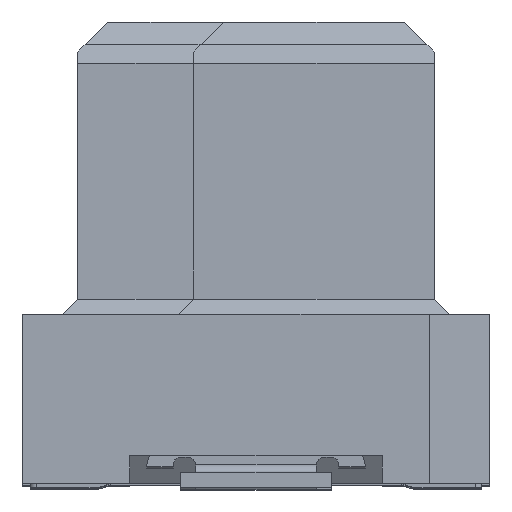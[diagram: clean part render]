
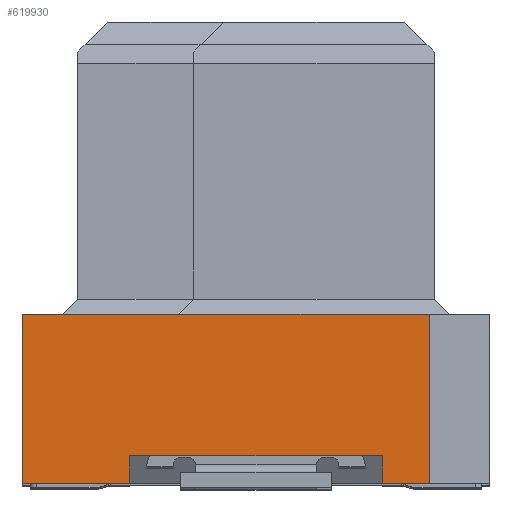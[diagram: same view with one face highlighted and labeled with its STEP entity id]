
A CAD part, top view. The second image highlights one B-rep face of the part: STEP entity #619930.
In plain terms, the highlighted planar face has unit normal (0, 0, 1).
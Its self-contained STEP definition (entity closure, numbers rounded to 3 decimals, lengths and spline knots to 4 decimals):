
#615500=CARTESIAN_POINT('',(5.4,4.25,14.81));
#615510=VERTEX_POINT('',#615500);
#615540=CARTESIAN_POINT('',(5.47,4.25,14.81));
#615550=DIRECTION('',(-1.,0.,0.));
#615560=VECTOR('',#615550,1.);
#615570=LINE('',#615540,#615560);
#615580=CARTESIAN_POINT('',(0.,4.25,14.81));
#615590=VERTEX_POINT('',#615580);
#615600=EDGE_CURVE('',#615510,#615590,#615570,.T.);
#617380=CARTESIAN_POINT('',(0.,0.,14.81));
#617390=DIRECTION('',(0.,-1.,0.));
#617400=VECTOR('',#617390,1.);
#617410=LINE('',#617380,#617400);
#617420=CARTESIAN_POINT('',(0.,2.,14.81));
#617430=VERTEX_POINT('',#617420);
#617440=EDGE_CURVE('',#615590,#617430,#617410,.T.);
#617610=CARTESIAN_POINT('',(5.47,2.,14.81));
#617620=DIRECTION('',(-1.,0.,0.));
#617630=VECTOR('',#617620,1.);
#617640=LINE('',#617610,#617630);
#617650=CARTESIAN_POINT('',(1.425,2.,14.81));
#617660=VERTEX_POINT('',#617650);
#617670=EDGE_CURVE('',#617660,#617430,#617640,.T.);
#617890=CARTESIAN_POINT('',(4.775,2.,14.81));
#617900=VERTEX_POINT('',#617890);
#617930=CARTESIAN_POINT('',(5.4,2.,14.81));
#617940=VERTEX_POINT('',#617930);
#617950=EDGE_CURVE('',#617940,#617900,#617640,.T.);
#619540=CARTESIAN_POINT('',(5.47,4.25,14.81));
#619550=DIRECTION('',(0.,-0.,1.));
#619560=DIRECTION('',(0.,1.,0.));
#619570=AXIS2_PLACEMENT_3D('',#619540,#619550,#619560);
#619580=PLANE('',#619570);
#619590=ORIENTED_EDGE('',*,*,#617440,.T.);
#619600=ORIENTED_EDGE('',*,*,#615600,.T.);
#619610=CARTESIAN_POINT('',(5.4,2.125,14.81));
#619620=DIRECTION('',(0.,1.,0.));
#619630=VECTOR('',#619620,1.);
#619640=LINE('',#619610,#619630);
#619650=EDGE_CURVE('',#617940,#615510,#619640,.T.);
#619660=ORIENTED_EDGE('',*,*,#619650,.T.);
#619670=ORIENTED_EDGE('',*,*,#617950,.F.);
#619680=CARTESIAN_POINT('',(4.775,2.,14.81));
#619690=DIRECTION('',(0.,-1.,0.));
#619700=VECTOR('',#619690,1.);
#619710=LINE('',#619680,#619700);
#619720=CARTESIAN_POINT('',(4.775,2.37,14.81));
#619730=VERTEX_POINT('',#619720);
#619740=EDGE_CURVE('',#619730,#617900,#619710,.T.);
#619750=ORIENTED_EDGE('',*,*,#619740,.T.);
#619760=CARTESIAN_POINT('',(0.,2.37,14.81));
#619770=DIRECTION('',(1.,0.,0.));
#619780=VECTOR('',#619770,1.);
#619790=LINE('',#619760,#619780);
#619800=CARTESIAN_POINT('',(1.425,2.37,14.81));
#619810=VERTEX_POINT('',#619800);
#619820=EDGE_CURVE('',#619810,#619730,#619790,.T.);
#619830=ORIENTED_EDGE('',*,*,#619820,.T.);
#619840=CARTESIAN_POINT('',(1.425,2.,14.81));
#619850=DIRECTION('',(0.,1.,0.));
#619860=VECTOR('',#619850,1.);
#619870=LINE('',#619840,#619860);
#619880=EDGE_CURVE('',#617660,#619810,#619870,.T.);
#619890=ORIENTED_EDGE('',*,*,#619880,.T.);
#619900=ORIENTED_EDGE('',*,*,#617670,.F.);
#619910=EDGE_LOOP('',(#619900,#619890,#619830,#619750,#619670,#619660,
#619600,#619590));
#619920=FACE_OUTER_BOUND('',#619910,.T.);
#619930=ADVANCED_FACE('',(#619920),#619580,.T.);
